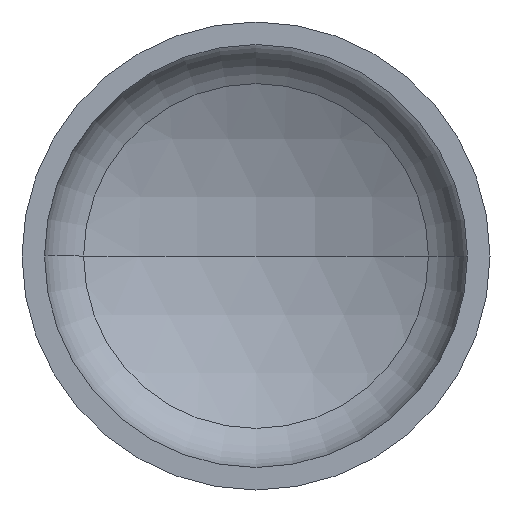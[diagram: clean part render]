
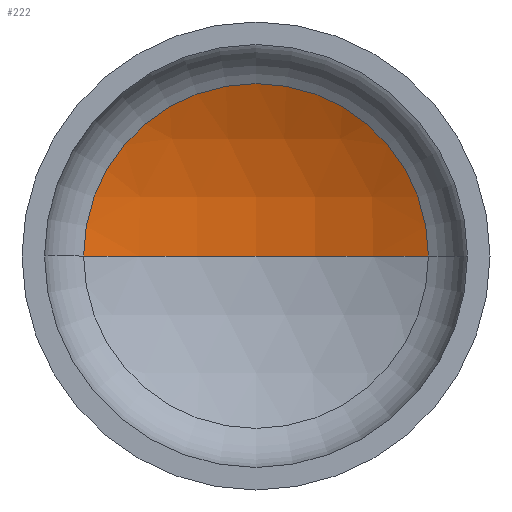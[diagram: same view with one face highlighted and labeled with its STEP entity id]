
A CAD part, front view. The second image highlights one B-rep face of the part: STEP entity #222.
In plain terms, the highlighted spherical face has radius 1760 mm.
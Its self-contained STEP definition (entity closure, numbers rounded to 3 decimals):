
#4 = DIRECTION ( 'NONE',  ( 0., 0., -1. ) ) ;
#14 = AXIS2_PLACEMENT_3D ( 'NONE', #276, #113, #228 ) ;
#16 = AXIS2_PLACEMENT_3D ( 'NONE', #205, #374, #377 ) ;
#20 = EDGE_LOOP ( 'NONE', ( #88, #133, #93 ) ) ;
#22 = VERTEX_POINT ( 'NONE', #279 ) ;
#53 = AXIS2_PLACEMENT_3D ( 'NONE', #233, #4, #153 ) ;
#71 = VERTEX_POINT ( 'NONE', #289 ) ;
#88 = ORIENTED_EDGE ( 'NONE', *, *, #388, .F. ) ;
#93 = ORIENTED_EDGE ( 'NONE', *, *, #349, .T. ) ;
#113 = DIRECTION ( 'NONE',  ( 0., 0., -1. ) ) ;
#125 = VERTEX_POINT ( 'NONE', #196 ) ;
#133 = ORIENTED_EDGE ( 'NONE', *, *, #352, .T. ) ;
#153 = DIRECTION ( 'NONE',  ( -1., 0., 0. ) ) ;
#169 = FACE_OUTER_BOUND ( 'NONE', #20, .T. ) ;
#196 = CARTESIAN_POINT ( 'NONE',  ( 810.592, 376.793, 0. ) ) ;
#205 = CARTESIAN_POINT ( 'NONE',  ( 0., 376.793, 0. ) ) ;
#222 = ADVANCED_FACE ( 'NONE', ( #169 ), #314, .F. ) ;
#223 = CIRCLE ( 'NONE', #16, 810.592 ) ;
#228 = DIRECTION ( 'NONE',  ( -1., 0., 0. ) ) ;
#233 = CARTESIAN_POINT ( 'NONE',  ( 0., -1185.43, 0. ) ) ;
#239 = DIRECTION ( 'NONE',  ( 0., 0., 1. ) ) ;
#259 = CIRCLE ( 'NONE', #287, 1760. ) ;
#276 = CARTESIAN_POINT ( 'NONE',  ( 0., -1185.43, 0. ) ) ;
#279 = CARTESIAN_POINT ( 'NONE',  ( -810.592, 376.793, 0. ) ) ;
#287 = AXIS2_PLACEMENT_3D ( 'NONE', #379, #239, #399 ) ;
#289 = CARTESIAN_POINT ( 'NONE',  ( 0., 574.57, 0. ) ) ;
#314 = SPHERICAL_SURFACE ( 'NONE', #53, 1760. ) ;
#343 = CIRCLE ( 'NONE', #14, 1760. ) ;
#349 = EDGE_CURVE ( 'NONE', #125, #22, #223, .T. ) ;
#352 = EDGE_CURVE ( 'NONE', #71, #125, #343, .T. ) ;
#374 = DIRECTION ( 'NONE',  ( 0., -1., 0. ) ) ;
#377 = DIRECTION ( 'NONE',  ( 1., 0., 0. ) ) ;
#379 = CARTESIAN_POINT ( 'NONE',  ( 0., -1185.43, 0. ) ) ;
#388 = EDGE_CURVE ( 'NONE', #71, #22, #259, .T. ) ;
#399 = DIRECTION ( 'NONE',  ( 1., 0., 0. ) ) ;
